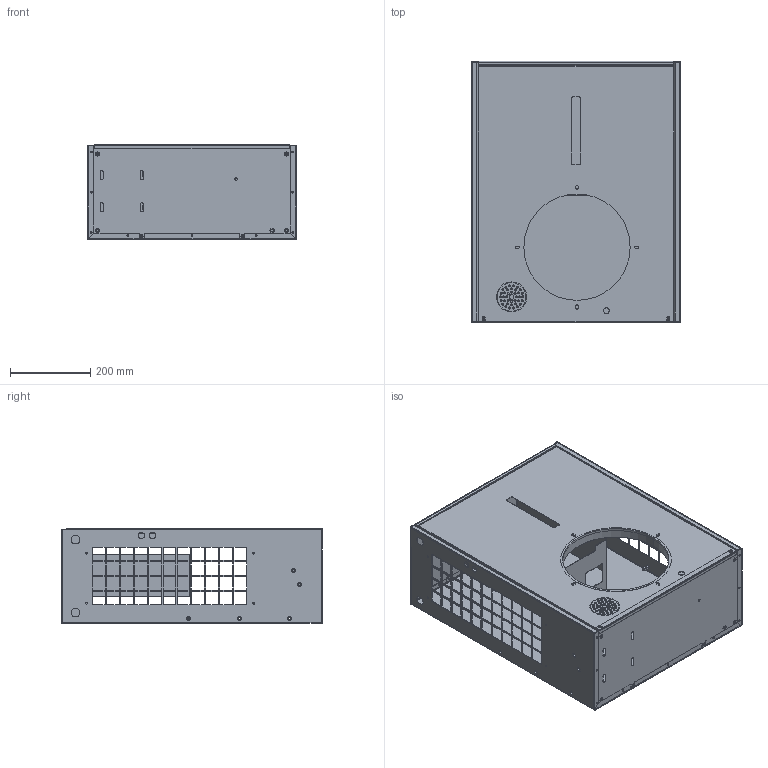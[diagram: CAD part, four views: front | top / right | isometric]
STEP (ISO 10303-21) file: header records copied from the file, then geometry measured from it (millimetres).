
FILE_DESCRIPTION (( 'STEP AP214' ), '1' );
FILE_NAME ('Figurino AWEX 16-16S.STEP', '2015-10-08T07:27:33', ( '' ), ( '' ), 'SwSTEP 2.0', 'SolidWorks 2013', '' );
FILE_SCHEMA (( 'AUTOMOTIVE_DESIGN' ));
Length unit declared in the file: millimetre
Products named in the file (6): AEFB0260F; Figurino AWEX 16-16S; AEFB0929C; AEFC0302A; AEFC0304E; AEFC0303D
Assembly tree (5 placements, depth 2):
  Figurino AWEX 16-16S
    AEFB0260F
    AEFC0303D
    AEFC0304E
    AEFC0302A
    AEFB0929C
Bounding box: 520 x 651 x 236 mm (x, y, z)
Volume: 1312743.2 mm3; surface area: 2557378.6 mm2
Topology: 24 solids, 24 shells, 1625 faces, 4311 edges, 2744 vertices
Faces by surface type: plane 1084, cylinder 439, cone 80, bspline 20, torus 2
Entity records: 54118 total; most frequent: CARTESIAN_POINT 11714, ORIENTED_EDGE 8622, DIRECTION 8217, EDGE_CURVE 4311, LINE 3203, VECTOR 3203, VERTEX_POINT 2744, AXIS2_PLACEMENT_3D 2507
